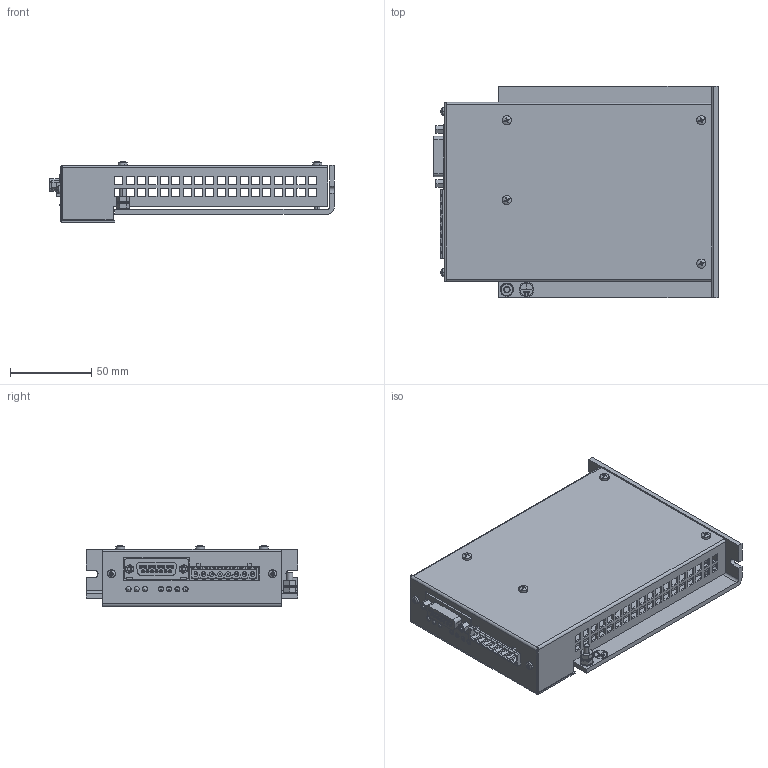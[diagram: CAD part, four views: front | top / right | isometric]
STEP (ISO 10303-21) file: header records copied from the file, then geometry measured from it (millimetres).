
FILE_DESCRIPTION(/* description */ ('Alibre Inc.'),/* implementation_level */ '2;1');
FILE_NAME(/* name */ 'export0',/* time_stamp */ '2014-04-17T14:49:34+02:00',/* author */ (''),/* organization */ (''),/* preprocessor_version */ 'ST-DEVELOPER v12',/* originating_system */ 'Alibre',/* authorisation */ '');
FILE_SCHEMA (('AUTOMOTIVE_DESIGN'));
Length unit declared in the file: centimetre
Products named in the file (18): ASSMANN WSW components | A-DF 15 A/KG-T1; BÜLTE | rundkopfschrauben_M3_6; BENE INOX | 210216-2,5X6; BÜLTE | 9344
Bounding box: 175 x 130 x 37.39 mm (x, y, z)
Volume: 133934.1 mm3; surface area: 156238.3 mm2
Topology: 28 solids, 30 shells, 1980 faces, 4907 edges, 3099 vertices
Faces by surface type: plane 1470, cylinder 316, cone 165, sphere 15, torus 14
Full cylindrical faces by diameter (mm): 2.459 x6, 3 x7, 3.2 x13, 3.4 x8, 4.5 x1, 8 x1, 9 x1
Entity records: 45847 total; most frequent: CARTESIAN_POINT 8132, ORIENTED_EDGE 7920, DIRECTION 6220, EDGE_CURVE 3960, VECTOR 2995, LINE 2995, VERTEX_POINT 2509, AXIS2_PLACEMENT_3D 2160
